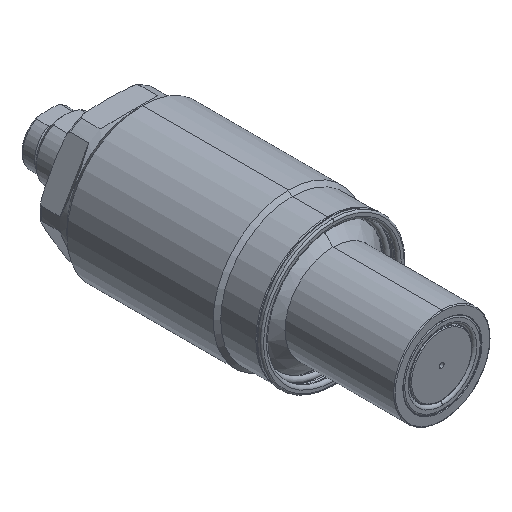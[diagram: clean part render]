
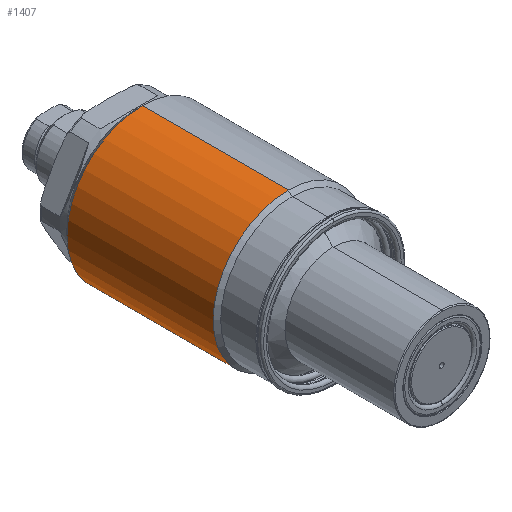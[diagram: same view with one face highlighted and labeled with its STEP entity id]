
A CAD part, isometric view. The second image highlights one B-rep face of the part: STEP entity #1407.
In plain terms, the highlighted cylindrical face has radius 18 mm (diameter 36 mm), a partial arc.
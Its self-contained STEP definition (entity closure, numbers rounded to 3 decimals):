
#548=CYLINDRICAL_SURFACE('',#6192,18.);
#804=LINE('',#9605,#1105);
#805=LINE('',#9609,#1106);
#1105=VECTOR('',#7575,1.);
#1106=VECTOR('',#7578,1.);
#1407=ADVANCED_FACE('',(#1838),#548,.T.);
#1838=FACE_OUTER_BOUND('',#2226,.T.);
#2226=EDGE_LOOP('',(#3434,#3435,#3436,#3437));
#3434=ORIENTED_EDGE('',*,*,#4885,.T.);
#3435=ORIENTED_EDGE('',*,*,#5040,.T.);
#3436=ORIENTED_EDGE('',*,*,#4887,.F.);
#3437=ORIENTED_EDGE('',*,*,#5039,.F.);
#4272=VERTEX_POINT('',#9600);
#4273=VERTEX_POINT('',#9602);
#4274=VERTEX_POINT('',#9606);
#4275=VERTEX_POINT('',#9608);
#4885=EDGE_CURVE('',#4274,#4272,#804,.T.);
#4887=EDGE_CURVE('',#4275,#4273,#805,.T.);
#5039=EDGE_CURVE('',#4274,#4275,#5490,.T.);
#5040=EDGE_CURVE('',#4272,#4273,#5491,.T.);
#5490=CIRCLE('',#6189,18.);
#5491=CIRCLE('',#6191,18.);
#6189=AXIS2_PLACEMENT_3D('',#10156,#7903,#7904);
#6191=AXIS2_PLACEMENT_3D('',#10158,#7907,#7908);
#6192=AXIS2_PLACEMENT_3D('',#10159,#7909,#7910);
#7575=DIRECTION('',(0.,1.,0.));
#7578=DIRECTION('',(0.,1.,0.));
#7903=DIRECTION('',(0.,-1.,0.));
#7904=DIRECTION('',(0.,0.,-1.));
#7907=DIRECTION('',(0.,-1.,0.));
#7908=DIRECTION('',(0.,0.,-1.));
#7909=DIRECTION('',(0.,-1.,0.));
#7910=DIRECTION('',(0.,0.,1.));
#9600=CARTESIAN_POINT('',(0.,77.193,18.));
#9602=CARTESIAN_POINT('',(0.,77.193,-18.));
#9605=CARTESIAN_POINT('',(0.,0.,18.));
#9606=CARTESIAN_POINT('',(0.,42.193,18.));
#9608=CARTESIAN_POINT('',(0.,42.193,-18.));
#9609=CARTESIAN_POINT('',(0.,0.,-18.));
#10156=CARTESIAN_POINT('',(0.,42.193,0.));
#10158=CARTESIAN_POINT('',(0.,77.193,0.));
#10159=CARTESIAN_POINT('',(0.,0.,0.));
